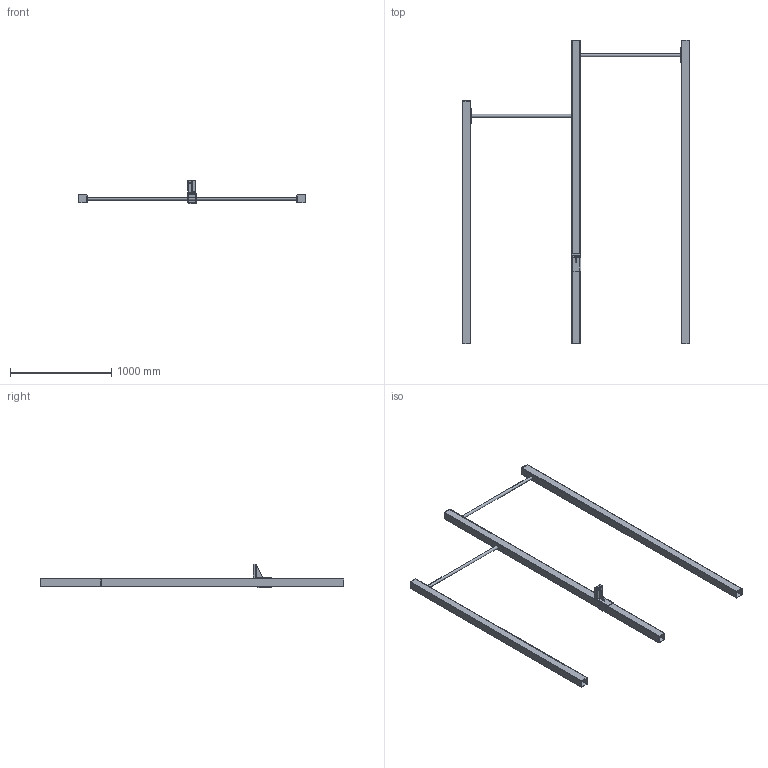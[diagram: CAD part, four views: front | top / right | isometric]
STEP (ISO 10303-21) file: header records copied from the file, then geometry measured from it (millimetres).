
FILE_DESCRIPTION(/* description */ (''),/* implementation_level */ '2;1');
FILE_NAME(/* name */ 'OGCU2_3D_Low.step',/* time_stamp */ '2025-11-11T16:08:58+02:00',/* author */ (''),/* organization */ (''),/* preprocessor_version */ 'ST-DEVELOPER v20.1',/* originating_system */ 'Autodesk Translation Framework v14.21.0.0',/* authorisation */ '');
FILE_SCHEMA (('AUTOMOTIVE_DESIGN { 1 0 10303 214 3 1 1 }'));
Length unit declared in the file: millimetre
Products named in the file (1): OGCU2_3D_Low
Bounding box: 2240 x 2998 x 230 mm (x, y, z)
Volume: 9372056.4 mm3; surface area: 5732887 mm2
Topology: 17 solids, 17 shells, 201 faces, 463 edges, 296 vertices
Faces by surface type: plane 109, cylinder 78, sphere 8, cone 6
Full cylindrical faces by diameter (mm): 11 x2, 22 x2, 25 x4, 30 x4, 31 x2
Entity records: 5811 total; most frequent: DIRECTION 1031, CARTESIAN_POINT 961, ORIENTED_EDGE 926, EDGE_CURVE 463, AXIS2_PLACEMENT_3D 366, LINE 299, VECTOR 299, VERTEX_POINT 296
